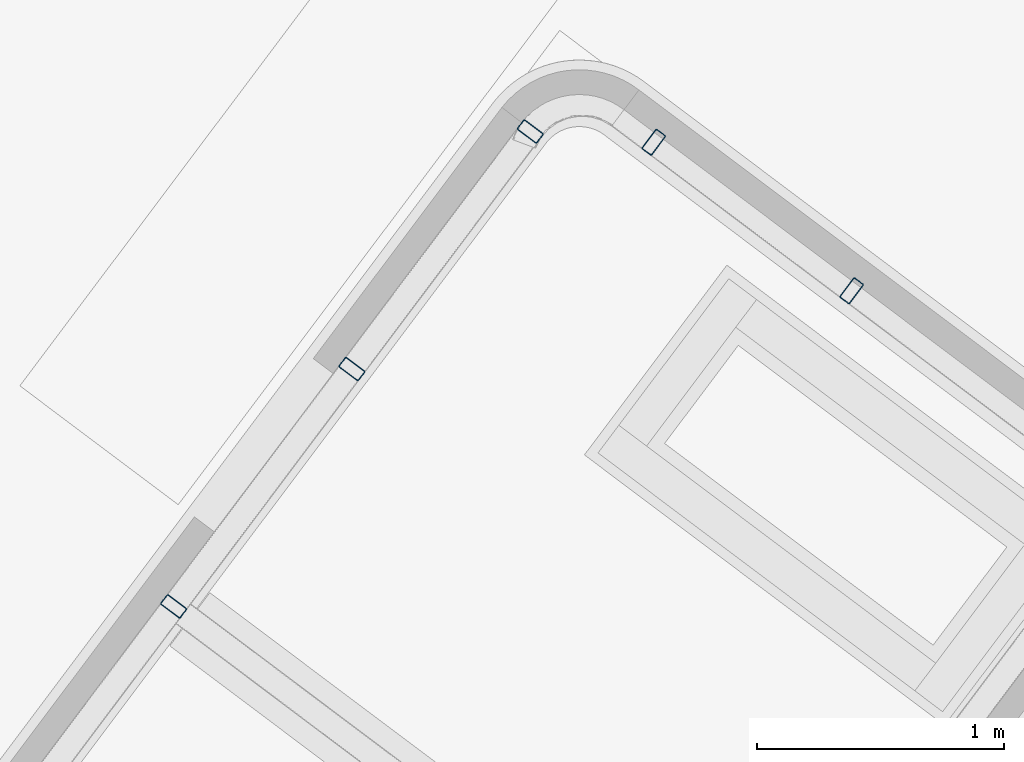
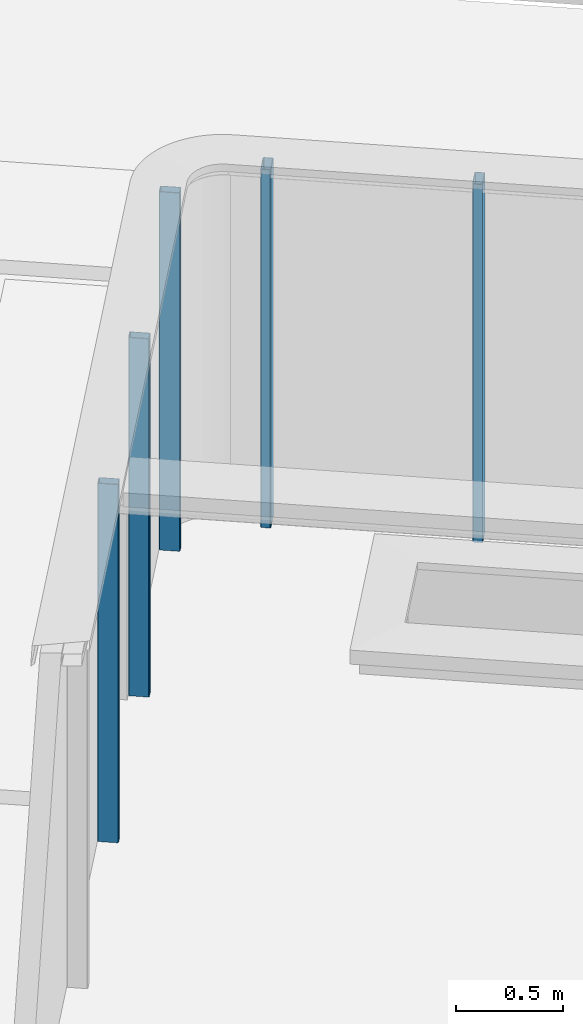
# One storey, part 6 of 28: 5 columns.
"""IFC2X3 building model written with IfcOpenShell, lengths in metres."""

from ifc_helpers import new_model, entity, si_unit, converted_unit, derived_unit, direction, frame, frame_2d, origin, place, context, subcontext, project, spatial, polyline, circle_curve, parameter, trimmed, segment, composite_curve, outline, extrude, source, transform, mapped, material, type_object, type_shapes, element, save


model = new_model("IFC2X3")

# Units and contexts
model_context = context("Model", 3, precision=1e-05, world=origin(), true_north=direction((6.123031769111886e-17, 1.0)))
body_context = subcontext(model_context, "Body", "Model", "MODEL_VIEW")
ifc_project = project(units=[si_unit("LENGTHUNIT", "METRE"), si_unit("AREAUNIT", "SQUARE_METRE"), si_unit("VOLUMEUNIT", "CUBIC_METRE"), converted_unit("PLANEANGLEUNIT", "DEGREE", entity("IfcRatioMeasure", 0.017453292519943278), si_unit("PLANEANGLEUNIT", "RADIAN"), dimensions=[0, 0, 0, 0, 0, 0, 0]), si_unit("MASSUNIT", "GRAM", prefix="KILO"), derived_unit("MASSDENSITYUNIT", [(si_unit("MASSUNIT", "GRAM", prefix="KILO"), 1), (si_unit("LENGTHUNIT", "METRE"), -3)]), derived_unit("IONCONCENTRATIONUNIT", [(si_unit("MASSUNIT", "GRAM", prefix="KILO"), 1), (si_unit("LENGTHUNIT", "METRE"), -3)]), derived_unit("MOMENTOFINERTIAUNIT", [(si_unit("LENGTHUNIT", "METRE"), 4)]), si_unit("TIMEUNIT", "SECOND"), si_unit("FREQUENCYUNIT", "HERTZ"), si_unit("THERMODYNAMICTEMPERATUREUNIT", "DEGREE_CELSIUS"), derived_unit("THERMALTRANSMITTANCEUNIT", [(si_unit("MASSUNIT", "GRAM", prefix="KILO"), 1), (si_unit("THERMODYNAMICTEMPERATUREUNIT", "KELVIN"), -1), (si_unit("TIMEUNIT", "SECOND"), -3)]), derived_unit("THERMALCONDUCTANCEUNIT", [(si_unit("MASSUNIT", "GRAM", prefix="KILO"), 1), (si_unit("THERMODYNAMICTEMPERATUREUNIT", "KELVIN"), -1), (si_unit("TIMEUNIT", "SECOND"), -3), (si_unit("LENGTHUNIT", "METRE"), 1)]), derived_unit("VOLUMETRICFLOWRATEUNIT", [(si_unit("LENGTHUNIT", "METRE"), 3), (si_unit("TIMEUNIT", "SECOND"), -1)]), derived_unit("MASSFLOWRATEUNIT", [(si_unit("MASSUNIT", "GRAM", prefix="KILO"), 1), (si_unit("TIMEUNIT", "SECOND"), -1)]), derived_unit("ROTATIONALFREQUENCYUNIT", [(si_unit("TIMEUNIT", "SECOND"), -1)]), si_unit("ELECTRICCURRENTUNIT", "AMPERE"), si_unit("ELECTRICVOLTAGEUNIT", "VOLT"), si_unit("POWERUNIT", "WATT"), si_unit("FORCEUNIT", "NEWTON", prefix="KILO"), si_unit("ILLUMINANCEUNIT", "LUX"), si_unit("LUMINOUSFLUXUNIT", "LUMEN"), si_unit("LUMINOUSINTENSITYUNIT", "CANDELA"), derived_unit("USERDEFINED", [(si_unit("MASSUNIT", "GRAM", prefix="KILO"), -1), (si_unit("LENGTHUNIT", "METRE"), -2), (si_unit("TIMEUNIT", "SECOND"), 3), (si_unit("LUMINOUSFLUXUNIT", "LUMEN"), 1)]), derived_unit("USERDEFINED", [(si_unit("MASSUNIT", "GRAM", prefix="KILO"), 1), (si_unit("TIMEUNIT", "SECOND"), -3), (si_unit("LENGTHUNIT", "METRE"), 3), (si_unit("ELECTRICCURRENTUNIT", "AMPERE"), -2)]), derived_unit("SOUNDPOWERUNIT", [(si_unit("MASSUNIT", "GRAM", prefix="KILO"), 1), (si_unit("TIMEUNIT", "SECOND"), -3), (si_unit("LENGTHUNIT", "METRE"), 2)]), derived_unit("SOUNDPRESSUREUNIT", [(si_unit("MASSUNIT", "GRAM", prefix="KILO"), 1), (si_unit("LENGTHUNIT", "METRE"), -1), (si_unit("TIMEUNIT", "SECOND"), -2)]), derived_unit("LINEARVELOCITYUNIT", [(si_unit("LENGTHUNIT", "METRE"), 1), (si_unit("TIMEUNIT", "SECOND"), -1)]), si_unit("PRESSUREUNIT", "PASCAL"), derived_unit("USERDEFINED", [(si_unit("MASSUNIT", "GRAM", prefix="KILO"), 1), (si_unit("LENGTHUNIT", "METRE"), -2), (si_unit("TIMEUNIT", "SECOND"), -2)]), derived_unit("LINEARFORCEUNIT", [(si_unit("MASSUNIT", "GRAM", prefix="KILO"), 1), (si_unit("TIMEUNIT", "SECOND"), -2)]), derived_unit("PLANARFORCEUNIT", [(si_unit("MASSUNIT", "GRAM", prefix="KILO"), 1), (si_unit("LENGTHUNIT", "METRE"), -1), (si_unit("TIMEUNIT", "SECOND"), -2)]), derived_unit("SPECIFICHEATCAPACITYUNIT", [(si_unit("THERMODYNAMICTEMPERATUREUNIT", "KELVIN"), -1), (si_unit("LENGTHUNIT", "METRE"), 2), (si_unit("TIMEUNIT", "SECOND"), -2)]), derived_unit("HEATINGVALUEUNIT", [(si_unit("LENGTHUNIT", "METRE"), 2), (si_unit("TIMEUNIT", "SECOND"), -2)]), derived_unit("VAPORPERMEABILITYUNIT", [(si_unit("LENGTHUNIT", "METRE"), -1), (si_unit("TIMEUNIT", "SECOND"), 1)]), derived_unit("DYNAMICVISCOSITYUNIT", [(si_unit("MASSUNIT", "GRAM", prefix="KILO"), 1), (si_unit("TIMEUNIT", "SECOND"), -1), (si_unit("LENGTHUNIT", "METRE"), -1)]), derived_unit("THERMALEXPANSIONCOEFFICIENTUNIT", [(si_unit("THERMODYNAMICTEMPERATUREUNIT", "KELVIN"), -1)]), derived_unit("MODULUSOFELASTICITYUNIT", [(si_unit("MASSUNIT", "GRAM", prefix="KILO"), 1), (si_unit("LENGTHUNIT", "METRE"), -1), (si_unit("TIMEUNIT", "SECOND"), -2)]), derived_unit("ISOTHERMALMOISTURECAPACITYUNIT", [(si_unit("LENGTHUNIT", "METRE"), 3), (si_unit("MASSUNIT", "GRAM", prefix="KILO"), -1)]), derived_unit("MOISTUREDIFFUSIVITYUNIT", [(si_unit("TIMEUNIT", "SECOND"), -1), (si_unit("LENGTHUNIT", "METRE"), 2)])], contexts=[model_context])

# Site, building, storey
site_placement = place(None, frame((0.0, 0.0, 235.0), z_axis=(0.0, 0.0, 1.0), x_axis=(-0.7996477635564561, 0.6004693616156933, 0.0)))
site = spatial("IfcSite", under=ifc_project, at=site_placement, Name="Default", CompositionType="ELEMENT")
building_placement = place(site_placement, origin())
building = spatial("IfcBuilding", under=site, at=building_placement, CompositionType="ELEMENT")
storey_placement = place(building_placement, frame((0.0, 0.0, 3.400000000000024)))
storey = spatial("IfcBuildingStorey", under=building, at=storey_placement, Name="PC- Coberta STR", CompositionType="ELEMENT", Elevation=3.400000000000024)

# Columns
ifc_material = material(Name="Metal - Acero - 345 MPa")
column_type = type_object("IfcColumnType", Name="STR- P- Acer- RHS- Rectangular- T1:100 x 50RHS", PredefinedType="COLUMN", material=ifc_material)
shared_shape = source(origin(), body_context, "Body", "SweptSolid", [
    extrude(outline(composite_curve([segment(polyline([(-0.01900000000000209, -0.04999999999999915), (0.019000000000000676, -0.04999999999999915)]), True, "CONTINUOUS"), segment(trimmed(circle_curve(frame_2d((0.019000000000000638, -0.04400000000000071), x_axis=(-1.0, 0.0)), 0.005999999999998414), [parameter(90.00000000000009)], [parameter(180.0000000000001)], True, "PARAMETER"), True, "CONTINUOUS"), segment(polyline([(0.024999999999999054, -0.044000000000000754), (0.02499999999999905, 0.044000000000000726)]), True, "CONTINUOUS"), segment(trimmed(circle_curve(frame_2d((0.018999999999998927, 0.044000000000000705), x_axis=(-1.0, 0.0)), 0.006000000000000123), [parameter(179.9999999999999)], [parameter(269.99999999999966)], True, "PARAMETER"), True, "CONTINUOUS"), segment(polyline([(0.018999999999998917, 0.05000000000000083), (-0.01899999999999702, 0.050000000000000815)]), True, "CONTINUOUS"), segment(trimmed(circle_curve(frame_2d((-0.018999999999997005, 0.043999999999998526), x_axis=(-1.0, 0.0)), 0.006000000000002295), [parameter(269.99999999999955)], [parameter(359.9999999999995)], True, "PARAMETER"), True, "CONTINUOUS"), segment(polyline([(-0.024999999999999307, 0.04399999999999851), (-0.024999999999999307, -0.04400000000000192)]), True, "CONTINUOUS"), segment(trimmed(circle_curve(frame_2d((-0.019000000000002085, -0.04400000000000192), x_axis=(-1.0, 0.0)), 0.005999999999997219), [parameter(359.9999999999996)], [parameter(89.99999999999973)], True, "PARAMETER"), True, "CONTINUOUS")], self_intersect=False), holes=[composite_curve([segment(trimmed(circle_curve(frame_2d((-0.019000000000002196, -0.044000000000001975), x_axis=(-1.0, 0.0)), 0.0029999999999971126), [parameter(0.0)], [parameter(90.00000000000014)], True, "PARAMETER"), False, "CONTINUOUS"), segment(polyline([(-0.021999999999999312, -0.044000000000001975), (-0.021999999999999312, 0.04400000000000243)]), True, "CONTINUOUS"), segment(trimmed(circle_curve(frame_2d((-0.019000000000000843, 0.04400000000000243), x_axis=(-1.0, 0.0)), 0.00299999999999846), [parameter(269.99999999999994)], [parameter(0.0)], True, "PARAMETER"), False, "CONTINUOUS"), segment(polyline([(-0.01900000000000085, 0.0470000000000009), (0.01899999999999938, 0.04700000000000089)]), True, "CONTINUOUS"), segment(trimmed(circle_curve(frame_2d((0.018999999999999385, 0.04399999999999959), x_axis=(-1.0, 0.0)), 0.0030000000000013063), [parameter(179.99999999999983)], [parameter(270.0)], True, "PARAMETER"), False, "CONTINUOUS"), segment(polyline([(0.022000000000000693, 0.04399999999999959), (0.022000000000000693, -0.04399999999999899)]), True, "CONTINUOUS"), segment(trimmed(circle_curve(frame_2d((0.019000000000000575, -0.043999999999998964), x_axis=(-1.0, 0.0)), 0.0030000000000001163), [parameter(90.00000000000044)], [parameter(180.0000000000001)], True, "PARAMETER"), False, "CONTINUOUS"), segment(polyline([(0.019000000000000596, -0.04699999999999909), (-0.019000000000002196, -0.04699999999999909)]), True, "CONTINUOUS")], self_intersect=False)]), frame((0.02658749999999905, 0.051587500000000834, 0.0), z_axis=(0.0, 0.0, 1.0), x_axis=(-1.0, 0.0, 0.0)), (0.0, 0.0, 1.0), 2.05),
])
type_shapes(column_type, [shared_shape])
for number, where, z_axis, x_axis, name in (
    (1, (18.65845862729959, -34.86767308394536, 0.4), (0.0, 0.0, 1.0), (0.0, -1.0, 0.0), "STR- P- Acer- RHS- Rectangular- T1:100 x 50RHS"),
    (2, (18.658458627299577, -36.06767308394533, 0.4), (0.0, 0.0, 1.0), (0.0, -1.0, 0.0), "STR- P- Acer- RHS- Rectangular- T1:100 x 50RHS"),
    (3, (18.658458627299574, -37.26767308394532, 0.4), (0.0, 0.0, 1.0), (0.0, -1.0, 0.0), "STR- P- Acer- RHS- Rectangular- T1:100 x 50RHS"),
    (4, (18.31163360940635, -37.50767305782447, 0.4), (0.0, 0.0, 1.0), (-1.0, 0.0, 0.0), "STR- P- Acer- RHS- Rectangular- T1:100 x 50RHS"),
    (5, (17.311633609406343, -37.50767305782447, 0.4), (0.0, 0.0, 1.0), (-1.0, 0.0, 0.0), "STR- P- Acer- RHS- Rectangular- T1:100 x 50RHS"),
):
    element("IfcColumn", number, at=place(storey_placement, frame(where, z_axis=z_axis, x_axis=x_axis)), inside=storey, type_object=column_type, material=ifc_material, Name=name, ObjectType="STR- P- Acer- RHS- Rectangular- T1:100 x 50RHS", context=body_context, shape_type="MappedRepresentation", body=[
        mapped(shared_shape, transform((0.0, 0.0, 0.0), scale=1.0)),
    ])

save(model, "model.ifc")
